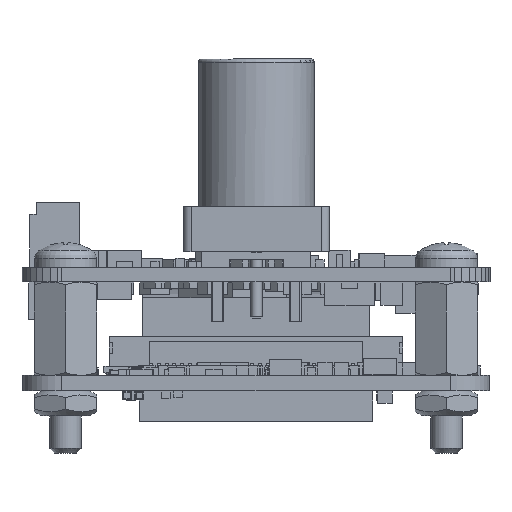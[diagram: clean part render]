
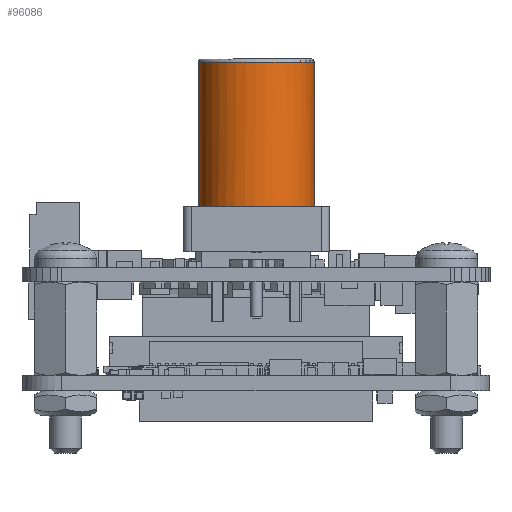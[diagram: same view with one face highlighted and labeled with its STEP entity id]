
A CAD part, front view. The second image highlights one B-rep face of the part: STEP entity #96086.
In plain terms, the highlighted cylindrical face has radius 3.725 mm (diameter 7.45 mm), a full revolution.
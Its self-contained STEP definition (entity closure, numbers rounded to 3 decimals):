
#10909=CYLINDRICAL_SURFACE('',#102963,3.725);
#15518=FACE_OUTER_BOUND('',#20899,.T.);
#20899=EDGE_LOOP('',(#89407,#89408,#89409,#89410,#89411,#89412,#89413,#89414));
#31146=LINE('',#158405,#41787);
#31147=LINE('',#158409,#41788);
#31148=LINE('',#158413,#41789);
#41787=VECTOR('',#125412,3.725);
#41788=VECTOR('',#125415,1.);
#41789=VECTOR('',#125418,1.);
#44097=CIRCLE('',#102964,3.725);
#44098=CIRCLE('',#102965,3.725);
#44099=CIRCLE('',#102966,3.725);
#44100=CIRCLE('',#102967,3.725);
#51857=VERTEX_POINT('',#158402);
#51858=VERTEX_POINT('',#158404);
#51859=VERTEX_POINT('',#158406);
#51860=VERTEX_POINT('',#158408);
#51861=VERTEX_POINT('',#158410);
#51862=VERTEX_POINT('',#158412);
#64478=EDGE_CURVE('',#51857,#51857,#44097,.T.);
#64479=EDGE_CURVE('',#51857,#51858,#31146,.T.);
#64480=EDGE_CURVE('',#51858,#51859,#44098,.T.);
#64481=EDGE_CURVE('',#51859,#51860,#31147,.T.);
#64482=EDGE_CURVE('',#51860,#51861,#44099,.T.);
#64483=EDGE_CURVE('',#51861,#51862,#31148,.T.);
#64484=EDGE_CURVE('',#51862,#51858,#44100,.T.);
#89407=ORIENTED_EDGE('',*,*,#64478,.T.);
#89408=ORIENTED_EDGE('',*,*,#64479,.T.);
#89409=ORIENTED_EDGE('',*,*,#64480,.T.);
#89410=ORIENTED_EDGE('',*,*,#64481,.T.);
#89411=ORIENTED_EDGE('',*,*,#64482,.T.);
#89412=ORIENTED_EDGE('',*,*,#64483,.T.);
#89413=ORIENTED_EDGE('',*,*,#64484,.T.);
#89414=ORIENTED_EDGE('',*,*,#64479,.F.);
#96086=ADVANCED_FACE('',(#15518),#10909,.T.);
#102963=AXIS2_PLACEMENT_3D('',#158401,#125408,#125409);
#102964=AXIS2_PLACEMENT_3D('',#158403,#125410,#125411);
#102965=AXIS2_PLACEMENT_3D('',#158407,#125413,#125414);
#102966=AXIS2_PLACEMENT_3D('',#158411,#125416,#125417);
#102967=AXIS2_PLACEMENT_3D('',#158414,#125419,#125420);
#125408=DIRECTION('center_axis',(0.,0.,1.));
#125409=DIRECTION('ref_axis',(1.,0.,0.));
#125410=DIRECTION('center_axis',(0.,0.,-1.));
#125411=DIRECTION('ref_axis',(1.,0.,0.));
#125412=DIRECTION('',(0.,0.,-1.));
#125413=DIRECTION('center_axis',(0.,0.,1.));
#125414=DIRECTION('ref_axis',(1.,0.,0.));
#125415=DIRECTION('',(0.,0.,1.));
#125416=DIRECTION('center_axis',(0.,0.,1.));
#125417=DIRECTION('ref_axis',(1.,0.,0.));
#125418=DIRECTION('',(0.,0.,-1.));
#125419=DIRECTION('center_axis',(0.,0.,1.));
#125420=DIRECTION('ref_axis',(1.,0.,0.));
#158401=CARTESIAN_POINT('Origin',(15.024,5.75,3.913));
#158402=CARTESIAN_POINT('',(11.296,5.75,13.212));
#158403=CARTESIAN_POINT('Origin',(15.021,5.75,13.213));
#158404=CARTESIAN_POINT('',(11.299,5.75,3.912));
#158405=CARTESIAN_POINT('',(11.299,5.75,3.912));
#158406=CARTESIAN_POINT('',(15.999,9.345,3.914));
#158407=CARTESIAN_POINT('Origin',(15.024,5.75,3.913));
#158408=CARTESIAN_POINT('',(15.997,9.345,8.864));
#158409=CARTESIAN_POINT('',(15.999,9.345,3.914));
#158410=CARTESIAN_POINT('',(14.047,9.345,8.863));
#158411=CARTESIAN_POINT('Origin',(15.022,5.75,8.863));
#158412=CARTESIAN_POINT('',(14.049,9.345,3.913));
#158413=CARTESIAN_POINT('',(14.049,9.345,3.913));
#158414=CARTESIAN_POINT('Origin',(15.024,5.75,3.913));
